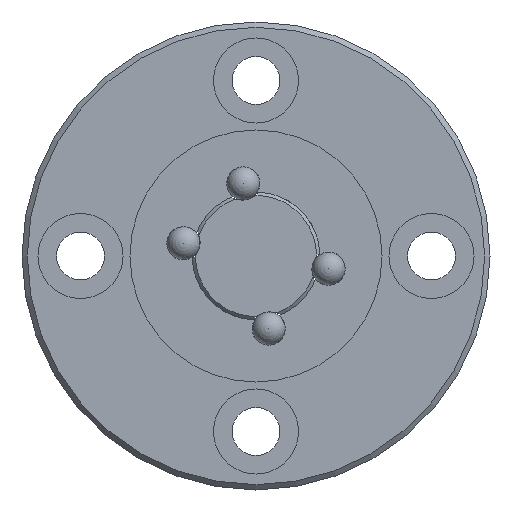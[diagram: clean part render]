
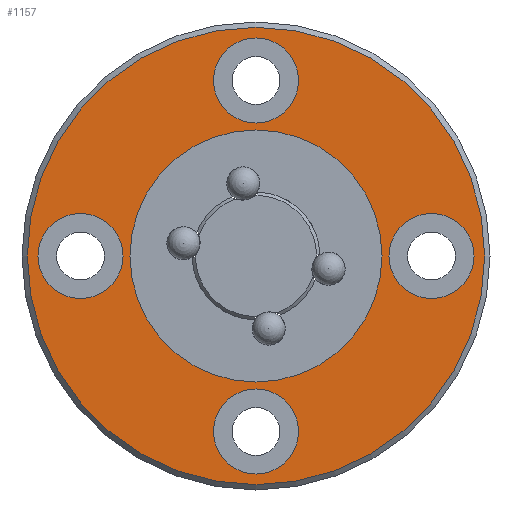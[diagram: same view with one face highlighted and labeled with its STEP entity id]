
A CAD part, left-side view. The second image highlights one B-rep face of the part: STEP entity #1157.
In plain terms, the highlighted planar face has unit normal (-1, 0, 0).
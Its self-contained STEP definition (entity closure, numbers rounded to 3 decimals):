
#53=PLANE('',#1301);
#320=ORIENTED_EDGE('',*,*,#531,.T.);
#321=ORIENTED_EDGE('',*,*,#532,.T.);
#322=ORIENTED_EDGE('',*,*,#533,.T.);
#323=ORIENTED_EDGE('',*,*,#534,.T.);
#324=ORIENTED_EDGE('',*,*,#535,.T.);
#325=ORIENTED_EDGE('',*,*,#529,.T.);
#529=EDGE_CURVE('',#650,#650,#743,.T.);
#531=EDGE_CURVE('',#652,#652,#745,.T.);
#532=EDGE_CURVE('',#653,#653,#746,.T.);
#533=EDGE_CURVE('',#654,#654,#747,.T.);
#534=EDGE_CURVE('',#655,#655,#748,.T.);
#535=EDGE_CURVE('',#656,#656,#749,.T.);
#650=VERTEX_POINT('',#2361);
#652=VERTEX_POINT('',#2366);
#653=VERTEX_POINT('',#2368);
#654=VERTEX_POINT('',#2370);
#655=VERTEX_POINT('',#2372);
#656=VERTEX_POINT('',#2374);
#743=CIRCLE('',#1299,21.5);
#745=CIRCLE('',#1302,11.85);
#746=CIRCLE('',#1303,4.);
#747=CIRCLE('',#1304,4.);
#748=CIRCLE('',#1305,4.);
#749=CIRCLE('',#1306,4.);
#847=EDGE_LOOP('',(#320));
#848=EDGE_LOOP('',(#321));
#849=EDGE_LOOP('',(#322));
#850=EDGE_LOOP('',(#323));
#851=EDGE_LOOP('',(#324));
#852=EDGE_LOOP('',(#325));
#1011=FACE_BOUND('',#847,.T.);
#1012=FACE_BOUND('',#848,.T.);
#1013=FACE_BOUND('',#849,.T.);
#1014=FACE_BOUND('',#850,.T.);
#1015=FACE_BOUND('',#851,.T.);
#1016=FACE_BOUND('',#852,.T.);
#1157=ADVANCED_FACE('',(#1011,#1012,#1013,#1014,#1015,#1016),#53,.F.);
#1299=AXIS2_PLACEMENT_3D('',#2360,#1552,#1553);
#1301=AXIS2_PLACEMENT_3D('',#2364,#1556,#1557);
#1302=AXIS2_PLACEMENT_3D('',#2365,#1558,#1559);
#1303=AXIS2_PLACEMENT_3D('',#2367,#1560,#1561);
#1304=AXIS2_PLACEMENT_3D('',#2369,#1562,#1563);
#1305=AXIS2_PLACEMENT_3D('',#2371,#1564,#1565);
#1306=AXIS2_PLACEMENT_3D('',#2373,#1566,#1567);
#1552=DIRECTION('',(-1.,0.,0.));
#1553=DIRECTION('',(0.,0.,1.));
#1556=DIRECTION('',(1.,0.,0.));
#1557=DIRECTION('',(0.,0.,-1.));
#1558=DIRECTION('',(1.,0.,0.));
#1559=DIRECTION('',(0.,0.,-1.));
#1560=DIRECTION('',(1.,0.,0.));
#1561=DIRECTION('',(0.,0.,1.));
#1562=DIRECTION('',(1.,0.,0.));
#1563=DIRECTION('',(0.,0.,1.));
#1564=DIRECTION('',(1.,0.,0.));
#1565=DIRECTION('',(0.,-1.,0.));
#1566=DIRECTION('',(1.,0.,0.));
#1567=DIRECTION('',(0.,-1.,0.));
#2360=CARTESIAN_POINT('',(-18.,0.,0.));
#2361=CARTESIAN_POINT('',(-18.,0.,21.5));
#2364=CARTESIAN_POINT('',(-18.,21.5,0.));
#2365=CARTESIAN_POINT('',(-18.,0.,0.));
#2366=CARTESIAN_POINT('',(-18.,0.,-11.85));
#2367=CARTESIAN_POINT('',(-18.,0.,16.5));
#2368=CARTESIAN_POINT('',(-18.,0.,20.5));
#2369=CARTESIAN_POINT('',(-18.,0.,-16.5));
#2370=CARTESIAN_POINT('',(-18.,0.,-12.5));
#2371=CARTESIAN_POINT('',(-18.,-16.5,0.));
#2372=CARTESIAN_POINT('',(-18.,-20.5,0.));
#2373=CARTESIAN_POINT('',(-18.,16.5,0.));
#2374=CARTESIAN_POINT('',(-18.,12.5,0.));
